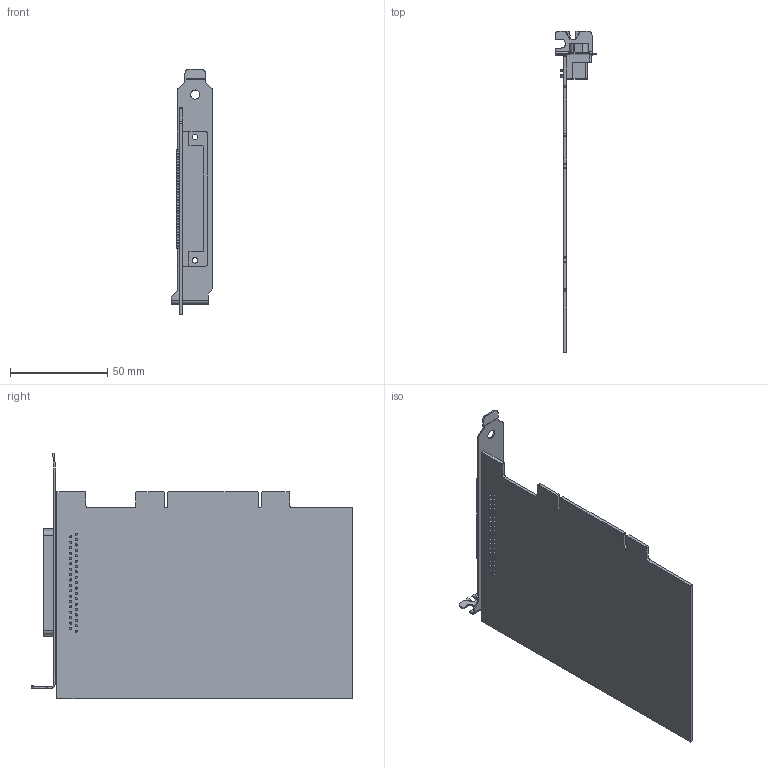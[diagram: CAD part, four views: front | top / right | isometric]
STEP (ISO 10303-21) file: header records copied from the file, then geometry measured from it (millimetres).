
FILE_DESCRIPTION((''),'2;1');
FILE_NAME('CU_PCI-6221_37PIN','2011-08-12T',('dkendric'),(''),'PRO/ENGINEER BY PARAMETRIC TECHNOLOGY CORPORATION, 2010230','PRO/ENGINEER BY PARAMETRIC TECHNOLOGY CORPORATION, 2010230','');
FILE_SCHEMA(('CONFIG_CONTROL_DESIGN'));
Length unit declared in the file: inch
Products named in the file (1): CU_PCI-6221_37PIN
Bounding box: 21.59 x 165.42 x 126.21 mm (x, y, z)
Volume: 34918.1 mm3; surface area: 39397 mm2
Topology: 1 solids, 1 shells, 256 faces, 593 edges, 384 vertices
Faces by surface type: plane 130, cylinder 122, bspline 4
Entity records: 7437 total; most frequent: CARTESIAN_POINT 1345, DIRECTION 1325, ORIENTED_EDGE 1186, EDGE_CURVE 593, AXIS2_PLACEMENT_3D 488, VERTEX_POINT 384, VECTOR 349, LINE 349
